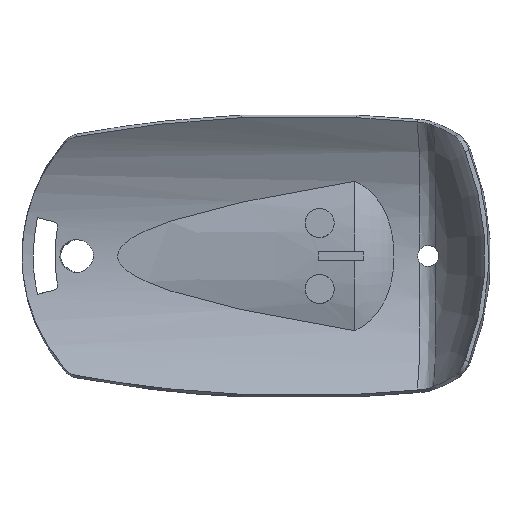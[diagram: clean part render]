
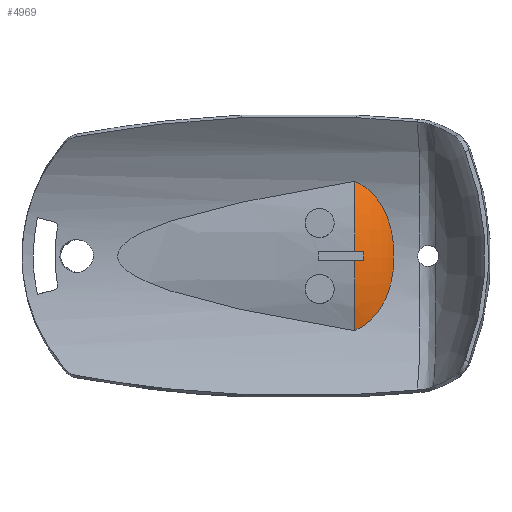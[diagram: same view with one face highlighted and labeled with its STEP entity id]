
A CAD part, front view. The second image highlights one B-rep face of the part: STEP entity #4969.
In plain terms, the highlighted toroidal (fillet/blend) face has major radius 21.661 mm and minor radius 11.1 mm.
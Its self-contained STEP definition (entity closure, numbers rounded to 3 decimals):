
#124 = CARTESIAN_POINT ( 'NONE',  ( 17.546, 15.284, -6.942 ) ) ;
#159 = VERTEX_POINT ( 'NONE', #2261 ) ;
#229 = CARTESIAN_POINT ( 'NONE',  ( 13.802, 12.588, 0.6 ) ) ;
#369 = DIRECTION ( 'NONE',  ( 1., 0., 0. ) ) ;
#454 = CIRCLE ( 'NONE', #4471, 31.918 ) ;
#486 = DIRECTION ( 'NONE',  ( 1., 0., 0. ) ) ;
#515 = CARTESIAN_POINT ( 'NONE',  ( 15.95, 14.736, 8.937 ) ) ;
#610 = CARTESIAN_POINT ( 'NONE',  ( 19.112, 16.033, -2.064 ) ) ;
#794 = CARTESIAN_POINT ( 'NONE',  ( 18.452, 15.677, 5.101 ) ) ;
#795 = CARTESIAN_POINT ( 'NONE',  ( 13.802, 44.913, 0. ) ) ;
#839 = ORIENTED_EDGE ( 'NONE', *, *, #1300, .T. ) ;
#995 = B_SPLINE_CURVE_WITH_KNOTS ( 'NONE', 3,
 ( #2291, #2204, #4886, #3972, #1163, #3913, #4312, #3838, #4017, #3682, #124, #4430, #4807, #4593, #2714, #3231, #610, #1824, #1807, #4860, #3742, #4120, #2303, #2887, #794, #4473, #4823, #515, #2169, #2137, #1406, #3722 ),
 .UNSPECIFIED., .F., .F.,
 ( 4, 2, 2, 2, 2, 2, 2, 2, 2, 2, 2, 2, 2, 2, 2, 4 ),
 ( 0., 0.002, 0.002, 0.003, 0.005, 0.005, 0.006, 0.009, 0.011, 0.012, 0.014, 0.016, 0.019, 0.022, 0.023, 0.025 ),
 .UNSPECIFIED. ) ;
#1029 = CARTESIAN_POINT ( 'NONE',  ( 14.79, 12.921, 0.6 ) ) ;
#1087 = AXIS2_PLACEMENT_3D ( 'NONE', #4399, #486, #2075 ) ;
#1163 = CARTESIAN_POINT ( 'NONE',  ( 15.558, 14.632, -9.255 ) ) ;
#1193 = DIRECTION ( 'NONE',  ( 0., 0., -1. ) ) ;
#1300 = EDGE_CURVE ( 'NONE', #3629, #2948, #2099, .T. ) ;
#1328 = ORIENTED_EDGE ( 'NONE', *, *, #4320, .T. ) ;
#1349 = CARTESIAN_POINT ( 'NONE',  ( 14.982, 13., -0.6 ) ) ;
#1405 = CARTESIAN_POINT ( 'NONE',  ( 14.004, 12.646, 0.6 ) ) ;
#1406 = CARTESIAN_POINT ( 'NONE',  ( 14.282, 14.344, 10.097 ) ) ;
#1554 = VERTEX_POINT ( 'NONE', #3028 ) ;
#1768 = ORIENTED_EDGE ( 'NONE', *, *, #2526, .T. ) ;
#1807 = CARTESIAN_POINT ( 'NONE',  ( 19.228, 16.1, -0.515 ) ) ;
#1824 = CARTESIAN_POINT ( 'NONE',  ( 19.205, 16.087, -1.032 ) ) ;
#1917 = EDGE_CURVE ( 'NONE', #159, #1554, #995, .T. ) ;
#2072 = TOROIDAL_SURFACE ( 'NONE', #1087, 21.661, 11.1 ) ;
#2075 = DIRECTION ( 'NONE',  ( 0., 0., -1. ) ) ;
#2099 = B_SPLINE_CURVE_WITH_KNOTS ( 'NONE', 3,
 ( #3049, #2268, #4590, #2645, #4988 ),
 .UNSPECIFIED., .F., .F.,
 ( 4, 1, 4 ),
 ( 0.068, 0.069, 0.069 ),
 .UNSPECIFIED. ) ;
#2137 = CARTESIAN_POINT ( 'NONE',  ( 14.729, 14.434, 9.847 ) ) ;
#2169 = CARTESIAN_POINT ( 'NONE',  ( 15.563, 14.629, 9.267 ) ) ;
#2204 = CARTESIAN_POINT ( 'NONE',  ( 14.282, 14.344, -10.097 ) ) ;
#2261 = CARTESIAN_POINT ( 'NONE',  ( 13.802, 14.269, -10.304 ) ) ;
#2268 = CARTESIAN_POINT ( 'NONE',  ( 14.789, 12.92, -0.6 ) ) ;
#2283 = B_SPLINE_CURVE_WITH_KNOTS ( 'NONE', 3,
 ( #229, #1405, #3392, #1029, #3778 ),
 .UNSPECIFIED., .F., .F.,
 ( 4, 1, 4 ),
 ( 0., 0.001, 0.001 ),
 .UNSPECIFIED. ) ;
#2291 = CARTESIAN_POINT ( 'NONE',  ( 13.802, 14.269, -10.304 ) ) ;
#2303 = CARTESIAN_POINT ( 'NONE',  ( 19.039, 15.992, 2.594 ) ) ;
#2431 = EDGE_CURVE ( 'NONE', #2948, #159, #4635, .T. ) ;
#2502 = EDGE_LOOP ( 'NONE', ( #839, #3957, #3017, #1328, #2685, #1768 ) ) ;
#2526 = EDGE_CURVE ( 'NONE', #4925, #3629, #454, .T. ) ;
#2553 = DIRECTION ( 'NONE',  ( 0., 0., 1. ) ) ;
#2578 = AXIS2_PLACEMENT_3D ( 'NONE', #795, #3558, #1193 ) ;
#2580 = CARTESIAN_POINT ( 'NONE',  ( 13.802, 12.588, 0.6 ) ) ;
#2645 = CARTESIAN_POINT ( 'NONE',  ( 14.003, 12.646, -0.6 ) ) ;
#2685 = ORIENTED_EDGE ( 'NONE', *, *, #5130, .T. ) ;
#2714 = CARTESIAN_POINT ( 'NONE',  ( 18.748, 15.833, -4.116 ) ) ;
#2744 = CIRCLE ( 'NONE', #2578, 32.33 ) ;
#2767 = CARTESIAN_POINT ( 'NONE',  ( 13.802, 44.913, 0. ) ) ;
#2887 = CARTESIAN_POINT ( 'NONE',  ( 18.747, 15.833, 4.119 ) ) ;
#2948 = VERTEX_POINT ( 'NONE', #3909 ) ;
#3017 = ORIENTED_EDGE ( 'NONE', *, *, #1917, .T. ) ;
#3028 = CARTESIAN_POINT ( 'NONE',  ( 13.802, 14.269, 10.304 ) ) ;
#3049 = CARTESIAN_POINT ( 'NONE',  ( 14.982, 13., -0.6 ) ) ;
#3115 = FACE_OUTER_BOUND ( 'NONE', #2502, .T. ) ;
#3147 = AXIS2_PLACEMENT_3D ( 'NONE', #2767, #3943, #4053 ) ;
#3204 = CARTESIAN_POINT ( 'NONE',  ( 14.982, 13., 0.6 ) ) ;
#3231 = CARTESIAN_POINT ( 'NONE',  ( 19.041, 15.993, -2.583 ) ) ;
#3392 = CARTESIAN_POINT ( 'NONE',  ( 14.402, 12.773, 0.6 ) ) ;
#3558 = DIRECTION ( 'NONE',  ( 1., 0., 0. ) ) ;
#3629 = VERTEX_POINT ( 'NONE', #1349 ) ;
#3682 = CARTESIAN_POINT ( 'NONE',  ( 17.412, 15.231, -7.16 ) ) ;
#3722 = CARTESIAN_POINT ( 'NONE',  ( 13.802, 14.269, 10.304 ) ) ;
#3742 = CARTESIAN_POINT ( 'NONE',  ( 19.205, 16.087, 1.037 ) ) ;
#3778 = CARTESIAN_POINT ( 'NONE',  ( 14.982, 13., 0.6 ) ) ;
#3838 = CARTESIAN_POINT ( 'NONE',  ( 16.67, 14.958, -8.193 ) ) ;
#3909 = CARTESIAN_POINT ( 'NONE',  ( 13.802, 12.588, -0.6 ) ) ;
#3913 = CARTESIAN_POINT ( 'NONE',  ( 15.947, 14.738, -8.923 ) ) ;
#3943 = DIRECTION ( 'NONE',  ( 1., 0., 0. ) ) ;
#3957 = ORIENTED_EDGE ( 'NONE', *, *, #2431, .T. ) ;
#3972 = CARTESIAN_POINT ( 'NONE',  ( 15.356, 14.581, -9.411 ) ) ;
#4017 = CARTESIAN_POINT ( 'NONE',  ( 16.987, 15.069, -7.795 ) ) ;
#4053 = DIRECTION ( 'NONE',  ( 0., 0., -1. ) ) ;
#4120 = CARTESIAN_POINT ( 'NONE',  ( 19.111, 16.033, 2.074 ) ) ;
#4312 = CARTESIAN_POINT ( 'NONE',  ( 16.135, 14.793, -8.746 ) ) ;
#4320 = EDGE_CURVE ( 'NONE', #1554, #5121, #2744, .T. ) ;
#4399 = CARTESIAN_POINT ( 'NONE',  ( 10.739, 44.913, 0. ) ) ;
#4430 = CARTESIAN_POINT ( 'NONE',  ( 17.796, 15.387, -6.494 ) ) ;
#4471 = AXIS2_PLACEMENT_3D ( 'NONE', #4648, #369, #2553 ) ;
#4473 = CARTESIAN_POINT ( 'NONE',  ( 17.582, 15.29, 6.976 ) ) ;
#4590 = CARTESIAN_POINT ( 'NONE',  ( 14.4, 12.772, -0.6 ) ) ;
#4593 = CARTESIAN_POINT ( 'NONE',  ( 18.453, 15.678, -5.098 ) ) ;
#4635 = CIRCLE ( 'NONE', #3147, 32.33 ) ;
#4648 = CARTESIAN_POINT ( 'NONE',  ( 14.982, 44.913, 0. ) ) ;
#4807 = CARTESIAN_POINT ( 'NONE',  ( 17.913, 15.438, -6.263 ) ) ;
#4823 = CARTESIAN_POINT ( 'NONE',  ( 17.025, 15.068, 7.827 ) ) ;
#4860 = CARTESIAN_POINT ( 'NONE',  ( 19.228, 16.1, 0.519 ) ) ;
#4886 = CARTESIAN_POINT ( 'NONE',  ( 14.729, 14.434, -9.847 ) ) ;
#4925 = VERTEX_POINT ( 'NONE', #3204 ) ;
#4969 = ADVANCED_FACE ( 'NONE', ( #3115 ), #2072, .T. ) ;
#4988 = CARTESIAN_POINT ( 'NONE',  ( 13.802, 12.588, -0.6 ) ) ;
#5121 = VERTEX_POINT ( 'NONE', #2580 ) ;
#5130 = EDGE_CURVE ( 'NONE', #5121, #4925, #2283, .T. ) ;
